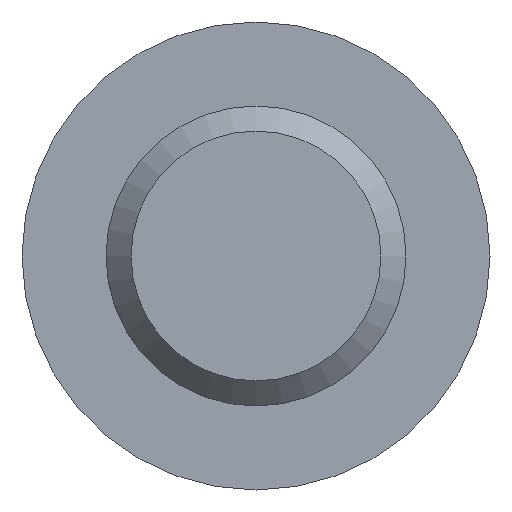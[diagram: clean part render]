
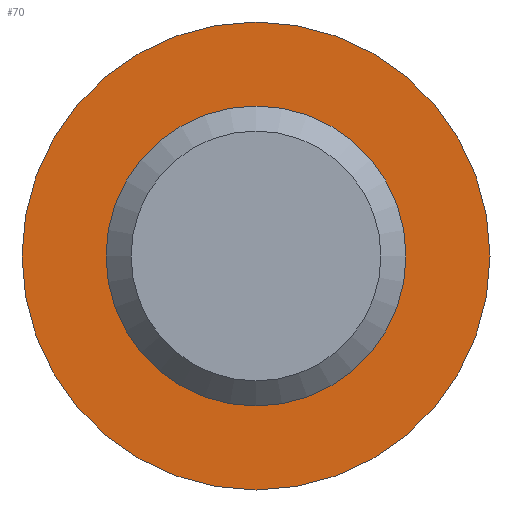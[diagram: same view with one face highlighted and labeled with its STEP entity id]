
A CAD part, front view. The second image highlights one B-rep face of the part: STEP entity #70.
In plain terms, the highlighted planar face has unit normal (0, -1, 0).
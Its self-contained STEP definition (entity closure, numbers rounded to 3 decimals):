
#50 = PLANE ( 'NONE',  #476 ) ;
#70 = ADVANCED_FACE ( 'NONE', ( #416, #421 ), #50, .T. ) ;
#97 = EDGE_LOOP ( 'NONE', ( #410 ) ) ;
#118 = DIRECTION ( 'NONE',  ( 0., -1., 0. ) ) ;
#138 = CARTESIAN_POINT ( 'NONE',  ( 0., 6., 0. ) ) ;
#152 = AXIS2_PLACEMENT_3D ( 'NONE', #138, #378, #287 ) ;
#182 = EDGE_CURVE ( 'NONE', #450, #450, #300, .T. ) ;
#193 = CARTESIAN_POINT ( 'NONE',  ( 0., 6., -9.362 ) ) ;
#199 = CARTESIAN_POINT ( 'NONE',  ( 6., 6., 0. ) ) ;
#227 = DIRECTION ( 'NONE',  ( 0., 0., -1. ) ) ;
#259 = AXIS2_PLACEMENT_3D ( 'NONE', #260, #268, #304 ) ;
#260 = CARTESIAN_POINT ( 'NONE',  ( 0., 6., 0. ) ) ;
#268 = DIRECTION ( 'NONE',  ( 0., -1., 0. ) ) ;
#287 = DIRECTION ( 'NONE',  ( 0., 0., -1. ) ) ;
#300 = CIRCLE ( 'NONE', #152, 9.362 ) ;
#304 = DIRECTION ( 'NONE',  ( 0., 0., -1. ) ) ;
#312 = CARTESIAN_POINT ( 'NONE',  ( 0., 6., -6. ) ) ;
#328 = EDGE_LOOP ( 'NONE', ( #427 ) ) ;
#378 = DIRECTION ( 'NONE',  ( 0., -1., 0. ) ) ;
#391 = VERTEX_POINT ( 'NONE', #312 ) ;
#410 = ORIENTED_EDGE ( 'NONE', *, *, #474, .F. ) ;
#414 = CIRCLE ( 'NONE', #259, 6. ) ;
#416 = FACE_OUTER_BOUND ( 'NONE', #328, .T. ) ;
#421 = FACE_BOUND ( 'NONE', #97, .T. ) ;
#427 = ORIENTED_EDGE ( 'NONE', *, *, #182, .T. ) ;
#450 = VERTEX_POINT ( 'NONE', #193 ) ;
#474 = EDGE_CURVE ( 'NONE', #391, #391, #414, .T. ) ;
#476 = AXIS2_PLACEMENT_3D ( 'NONE', #199, #118, #227 ) ;
